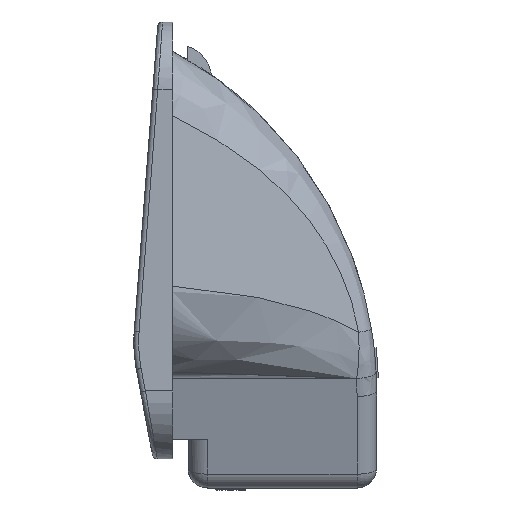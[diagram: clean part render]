
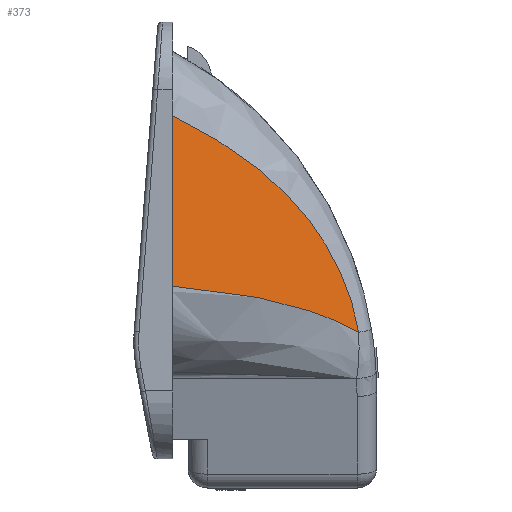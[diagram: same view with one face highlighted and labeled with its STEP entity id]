
A CAD part, left-side view. The second image highlights one B-rep face of the part: STEP entity #373.
In plain terms, the highlighted planar face has unit normal (-0.945, -0.326, 0).
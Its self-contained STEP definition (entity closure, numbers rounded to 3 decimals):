
#373 = ADVANCED_FACE ( 'NONE', ( #18587 ), #10995, .F. ) ;
#781 = CARTESIAN_POINT ( 'NONE',  ( 4.82, -1.651, -4.825 ) ) ;
#1168 = CARTESIAN_POINT ( 'NONE',  ( 10.537, -18.211, -5.636 ) ) ;
#1243 = CARTESIAN_POINT ( 'NONE',  ( 8.563, -12.491, 3.941 ) ) ;
#1313 = CARTESIAN_POINT ( 'NONE',  ( 6.452, -6.378, 9.19 ) ) ;
#1373 = CARTESIAN_POINT ( 'NONE',  ( 5.355, -3.2, 11.16 ) ) ;
#2471 = VERTEX_POINT ( 'NONE', #13720 ) ;
#2636 = CARTESIAN_POINT ( 'NONE',  ( 5.389, -3.3, -4.994 ) ) ;
#2826 = CARTESIAN_POINT ( 'NONE',  ( 10.337, -17.632, -4.054 ) ) ;
#2883 = CARTESIAN_POINT ( 'NONE',  ( 8.459, -12.193, 4.263 ) ) ;
#2957 = CARTESIAN_POINT ( 'NONE',  ( 6.437, -6.335, 9.219 ) ) ;
#3036 = CARTESIAN_POINT ( 'NONE',  ( 4.655, -1.174, 12.271 ) ) ;
#3228 = CARTESIAN_POINT ( 'NONE',  ( 10.867, -19.166, -9.466 ) ) ;
#3523 = ORIENTED_EDGE ( 'NONE', *, *, #18733, .T. ) ;
#4277 = CARTESIAN_POINT ( 'NONE',  ( 7.083, -8.206, -5.733 ) ) ;
#4450 = CARTESIAN_POINT ( 'NONE',  ( 10.084, -16.9, -2.474 ) ) ;
#4523 = CARTESIAN_POINT ( 'NONE',  ( 8.435, -12.121, 4.34 ) ) ;
#4573 = B_SPLINE_CURVE_WITH_KNOTS ( 'NONE', 3,
 ( #10613, #7302, #17467, #7656, #19101, #9290, #20719, #10959, #1168, #12603, #2826, #14244, #4450, #15885, #6081, #17535, #7715, #19161, #9377, #20781, #11030, #1243, #12670, #2883, #14314, #4523, #15951, #6144, #17617, #7788, #19226, #9448, #20857, #11093, #1313, #12749, #2957, #14374, #4595, #16033, #6207, #17684, #7871, #19289, #9509, #20929, #11167, #1373, #12816, #3036, #14451 ),
 .UNSPECIFIED., .F., .F.,
 ( 4, 1, 1, 1, 1, 2, 2, 1, 1, 1, 1, 2, 2, 1, 1, 1, 1, 1, 1, 2, 2, 1, 1, 1, 1, 1, 1, 1, 2, 2, 1, 1, 1, 1, 1, 1, 2, 2, 4 ),
 ( 0., 0.062, 0.094, 0.109, 0.117, 0.121, 0.125, 0.187, 0.219, 0.234, 0.242, 0.246, 0.25, 0.375, 0.437, 0.469, 0.484, 0.492, 0.496, 0.498, 0.5, 0.625, 0.687, 0.719, 0.734, 0.742, 0.746, 0.748, 0.749, 0.75, 0.812, 0.844, 0.859, 0.867, 0.871, 0.873, 0.874, 0.875, 1. ),
 .UNSPECIFIED. ) ;
#4595 = CARTESIAN_POINT ( 'NONE',  ( 6.264, -5.834, 9.559 ) ) ;
#5473 = ORIENTED_EDGE ( 'NONE', *, *, #9749, .T. ) ;
#5483 = ORIENTED_EDGE ( 'NONE', *, *, #10886, .T. ) ;
#5899 = CARTESIAN_POINT ( 'NONE',  ( 8.755, -13.05, -6.887 ) ) ;
#6081 = CARTESIAN_POINT ( 'NONE',  ( 10.019, -16.711, -2.101 ) ) ;
#6144 = CARTESIAN_POINT ( 'NONE',  ( 8.138, -11.263, 5.248 ) ) ;
#6207 = CARTESIAN_POINT ( 'NONE',  ( 5.684, -4.152, 10.608 ) ) ;
#6842 = VECTOR ( 'NONE', #20335, 1000. ) ;
#7302 = CARTESIAN_POINT ( 'NONE',  ( 10.831, -19.061, -8.817 ) ) ;
#7528 = CARTESIAN_POINT ( 'NONE',  ( 9.834, -16.173, -7.995 ) ) ;
#7656 = CARTESIAN_POINT ( 'NONE',  ( 10.655, -18.554, -6.72 ) ) ;
#7715 = CARTESIAN_POINT ( 'NONE',  ( 9.999, -16.652, -1.988 ) ) ;
#7788 = CARTESIAN_POINT ( 'NONE',  ( 7.073, -8.177, 7.902 ) ) ;
#7871 = CARTESIAN_POINT ( 'NONE',  ( 5.436, -3.435, 11.026 ) ) ;
#8087 = B_SPLINE_CURVE_WITH_KNOTS ( 'NONE', 3,
 ( #17276, #781, #2636, #14064, #4277, #15705, #5899, #17358, #7528, #18986, #9185, #20602 ),
 .UNSPECIFIED., .F., .F.,
 ( 4, 2, 2, 2, 2, 4 ),
 ( 0., 0.005, 0.011, 0.016, 0.018, 0.021 ),
 .UNSPECIFIED. ) ;
#9185 = CARTESIAN_POINT ( 'NONE',  ( 10.616, -18.44, -9.036 ) ) ;
#9290 = CARTESIAN_POINT ( 'NONE',  ( 10.565, -18.291, -5.878 ) ) ;
#9377 = CARTESIAN_POINT ( 'NONE',  ( 9.439, -15.031, 0.817 ) ) ;
#9448 = CARTESIAN_POINT ( 'NONE',  ( 6.595, -6.794, 8.904 ) ) ;
#9509 = CARTESIAN_POINT ( 'NONE',  ( 5.373, -3.253, 11.13 ) ) ;
#9566 = CARTESIAN_POINT ( 'NONE',  ( 4.25, 0., 12.857 ) ) ;
#9749 = EDGE_CURVE ( 'NONE', #11272, #14507, #4573, .T. ) ;
#10613 = CARTESIAN_POINT ( 'NONE',  ( 10.867, -19.166, -9.466 ) ) ;
#10886 = EDGE_CURVE ( 'NONE', #2471, #11272, #8087, .T. ) ;
#10959 = CARTESIAN_POINT ( 'NONE',  ( 10.542, -18.225, -5.678 ) ) ;
#10995 = PLANE ( 'NONE',  #17856 ) ;
#11030 = CARTESIAN_POINT ( 'NONE',  ( 8.697, -12.881, 3.507 ) ) ;
#11093 = CARTESIAN_POINT ( 'NONE',  ( 6.473, -6.438, 9.149 ) ) ;
#11167 = CARTESIAN_POINT ( 'NONE',  ( 5.358, -3.21, 11.155 ) ) ;
#11272 = VERTEX_POINT ( 'NONE', #3228 ) ;
#11493 = CARTESIAN_POINT ( 'NONE',  ( 3.797, 1.311, 78.5 ) ) ;
#11731 = LINE ( 'NONE', #17084, #6842 ) ;
#12603 = CARTESIAN_POINT ( 'NONE',  ( 10.46, -17.986, -4.976 ) ) ;
#12670 = CARTESIAN_POINT ( 'NONE',  ( 8.494, -12.293, 4.156 ) ) ;
#12749 = CARTESIAN_POINT ( 'NONE',  ( 6.443, -6.352, 9.207 ) ) ;
#12816 = CARTESIAN_POINT ( 'NONE',  ( 5.023, -2.238, 11.706 ) ) ;
#13720 = CARTESIAN_POINT ( 'NONE',  ( 4.25, 0., -4.707 ) ) ;
#14064 = CARTESIAN_POINT ( 'NONE',  ( 6.521, -6.577, -5.448 ) ) ;
#14244 = CARTESIAN_POINT ( 'NONE',  ( 10.172, -17.155, -2.997 ) ) ;
#14314 = CARTESIAN_POINT ( 'NONE',  ( 8.445, -12.15, 4.309 ) ) ;
#14374 = CARTESIAN_POINT ( 'NONE',  ( 6.434, -6.326, 9.226 ) ) ;
#14451 = CARTESIAN_POINT ( 'NONE',  ( 4.25, 0., 12.857 ) ) ;
#14507 = VERTEX_POINT ( 'NONE', #9566 ) ;
#15273 = EDGE_LOOP ( 'NONE', ( #5483, #5473, #3523 ) ) ;
#15705 = CARTESIAN_POINT ( 'NONE',  ( 8.2, -11.44, -6.453 ) ) ;
#15885 = CARTESIAN_POINT ( 'NONE',  ( 10.039, -16.768, -2.213 ) ) ;
#15951 = CARTESIAN_POINT ( 'NONE',  ( 8.429, -12.105, 4.357 ) ) ;
#16033 = CARTESIAN_POINT ( 'NONE',  ( 6.004, -5.08, 10.046 ) ) ;
#17084 = CARTESIAN_POINT ( 'NONE',  ( 4.25, 0., 78.5 ) ) ;
#17276 = CARTESIAN_POINT ( 'NONE',  ( 4.25, 0., -4.707 ) ) ;
#17358 = CARTESIAN_POINT ( 'NONE',  ( 9.567, -15.4, -7.698 ) ) ;
#17467 = CARTESIAN_POINT ( 'NONE',  ( 10.761, -18.861, -7.847 ) ) ;
#17535 = CARTESIAN_POINT ( 'NONE',  ( 10.006, -16.672, -2.027 ) ) ;
#17617 = CARTESIAN_POINT ( 'NONE',  ( 7.675, -9.919, 6.514 ) ) ;
#17684 = CARTESIAN_POINT ( 'NONE',  ( 5.519, -3.676, 10.887 ) ) ;
#17856 = AXIS2_PLACEMENT_3D ( 'NONE', #11493, #20745, #19132 ) ;
#18587 = FACE_OUTER_BOUND ( 'NONE', #15273, .T. ) ;
#18733 = EDGE_CURVE ( 'NONE', #14507, #2471, #11731, .T. ) ;
#18986 = CARTESIAN_POINT ( 'NONE',  ( 10.358, -17.693, -8.665 ) ) ;
#19101 = CARTESIAN_POINT ( 'NONE',  ( 10.596, -18.382, -6.158 ) ) ;
#19132 = DIRECTION ( 'NONE',  ( -0.326, 0.945, 0. ) ) ;
#19161 = CARTESIAN_POINT ( 'NONE',  ( 9.788, -16.042, -0.822 ) ) ;
#19226 = CARTESIAN_POINT ( 'NONE',  ( 6.757, -7.262, 8.574 ) ) ;
#19289 = CARTESIAN_POINT ( 'NONE',  ( 5.394, -3.314, 11.095 ) ) ;
#20335 = DIRECTION ( 'NONE',  ( 0., 0., -1. ) ) ;
#20602 = CARTESIAN_POINT ( 'NONE',  ( 10.867, -19.166, -9.466 ) ) ;
#20719 = CARTESIAN_POINT ( 'NONE',  ( 10.551, -18.251, -5.758 ) ) ;
#20745 = DIRECTION ( 'NONE',  ( 0.945, 0.326, 0. ) ) ;
#20781 = CARTESIAN_POINT ( 'NONE',  ( 8.957, -13.634, 2.627 ) ) ;
#20857 = CARTESIAN_POINT ( 'NONE',  ( 6.514, -6.557, 9.068 ) ) ;
#20929 = CARTESIAN_POINT ( 'NONE',  ( 5.364, -3.227, 11.145 ) ) ;
